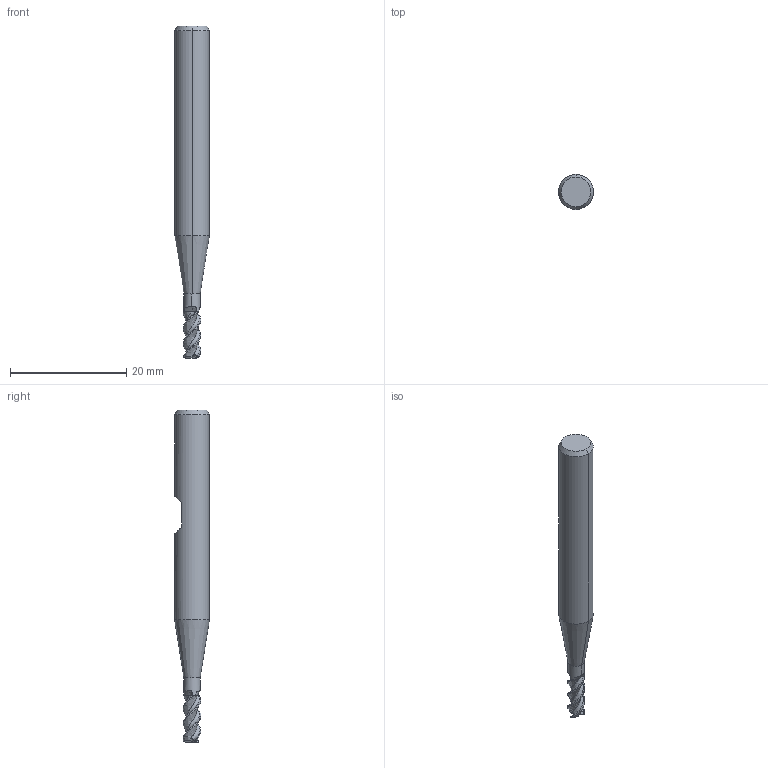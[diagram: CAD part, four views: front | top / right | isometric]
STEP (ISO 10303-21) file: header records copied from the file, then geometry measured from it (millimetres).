
FILE_DESCRIPTION(('no description'),'unknown implementation level');
FILE_NAME('solidGOQAOg_j4y2Fedr2dj1Dse67_J0_1.STP',' ',('CIMSOURCE GmbH'),('CADClick - KiM GmbH - www.kimweb.de'),'unknown preprocess','ACIS','unknown authorization');
FILE_SCHEMA(('automotive_design'));
Length unit declared in the file: millimetre
Products named in the file (2): 1; 2
Bounding box: 6 x 6 x 57 mm (x, y, z)
Volume: 1200.1 mm3; surface area: 958.3 mm2
Topology: 2 solids, 2 shells, 80 faces, 221 edges, 145 vertices
Faces by surface type: plane 29, bspline 15, cone 13, cylinder 11, revolution 9, torus 3
Entity records: 11446 total; most frequent: CARTESIAN_POINT 7098, STYLED_ITEM 448, PRESENTATION_STYLE_ASSIGNMENT 448, COLOUR_RGB 448, ORIENTED_EDGE 442, DIRECTION 287, EDGE_CURVE 221, CURVE_STYLE 221
